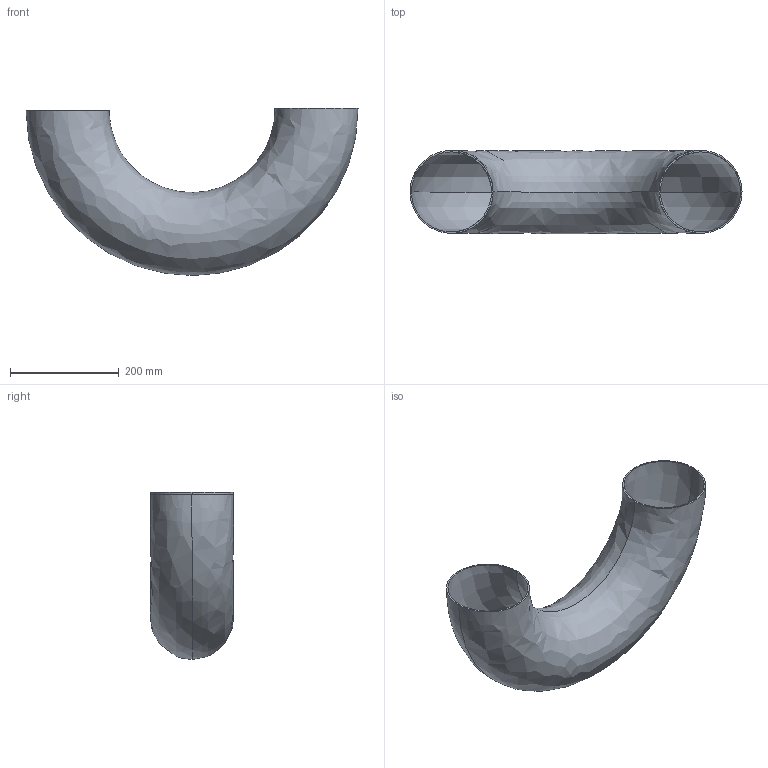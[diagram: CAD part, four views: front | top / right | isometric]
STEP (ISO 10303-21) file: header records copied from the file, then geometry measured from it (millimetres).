
FILE_DESCRIPTION (( 'STEP AP203' ), '1' );
FILE_NAME ('E2WU6.0.STEP', '2018-04-30T18:21:54', ( 'vneprd' ), ( 'Microsoft' ), 'SwSTEP 2.0', 'SolidWorks 2014', '' );
FILE_SCHEMA (( 'CONFIG_CONTROL_DESIGN' ));
Length unit declared in the file: inch
Products named in the file (1): E2WU6.0
Bounding box: 609.58 x 152.4 x 306.84 mm (x, y, z)
Volume: 934711.8 mm3; surface area: 677782.4 mm2
Topology: 1 solids, 1 shells, 10 faces, 22 edges, 14 vertices
Faces by surface type: bspline 8, plane 2
Entity records: 10585 total; most frequent: CARTESIAN_POINT 10319, ORIENTED_EDGE 44, DIRECTION 26, EDGE_CURVE 22, VERTEX_POINT 14, AXIS2_PLACEMENT_3D 13, EDGE_LOOP 12, B_SPLINE_CURVE_WITH_KNOTS 12
